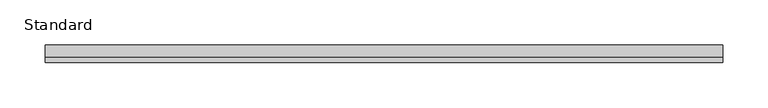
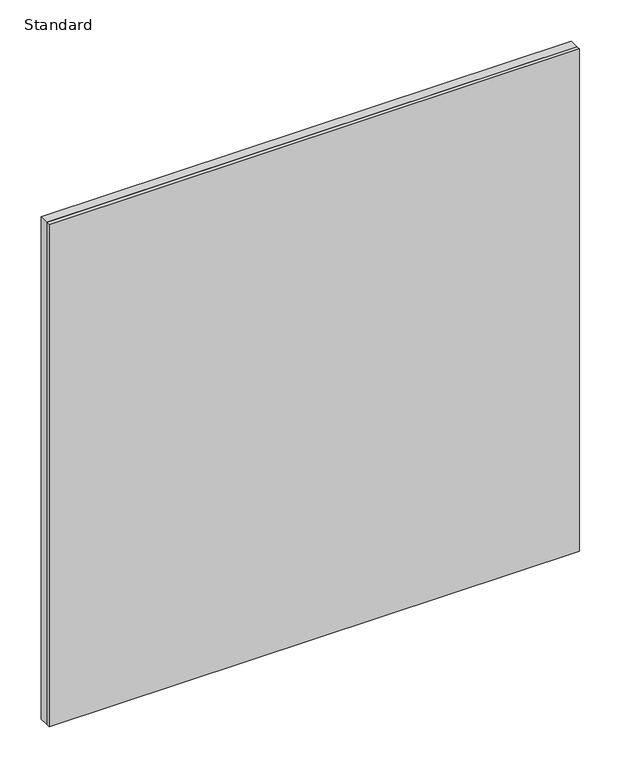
"""IFC4 building model written with IfcOpenShell, lengths in millimetres: furniture geometry, X_Partition-Compact Laminate-Duracube-Cabinet Door : Standard."""

from ifc_helpers import new_model, si_unit, frame, origin, place, context, project, spatial, polyline, outline, extrude, source, transform, mapped, element, save


def standard_cc6c492e(model_context):
    return source(origin(), model_context, "Body", "SweptSolid", [
        extrude(outline(polyline([(416.7003264, -13.0), (-327.2996736, -13.0), (-327.2996736, 0.0), (416.7003264, 0.0), (416.7003264, -13.0)])), frame((0.0, 0.0, 3.0), z_axis=(0.0, 0.0, 1.0), x_axis=(1.0, 0.0, 0.0)), (0.0, 0.0, 1.0), 744.0),
        extrude(outline(polyline([(416.7003264, -19.0), (-327.2996736, -19.0), (-327.2996736, -13.0), (416.7003264, -13.0), (416.7003264, -19.0)])), frame((0.0, 0.0, 3.0), z_axis=(0.0, 0.0, 1.0), x_axis=(1.0, 0.0, 0.0)), (0.0, 0.0, 1.0), 744.0),
    ])


if __name__ == "__main__":
    model = new_model("IFC4")
    model_context = context("Model", 3, world=origin())
    ifc_project = project(units=[si_unit("LENGTHUNIT", "METRE", prefix="MILLI")], contexts=[model_context])
    site = spatial("IfcSite", under=ifc_project)
    building = spatial("IfcBuilding", under=site)
    placement = place(None, origin())
    standard_shape = standard_cc6c492e(model_context)
    element("IfcFurniture", 1, ObjectType="X_Partition-Compact Laminate-Duracube-Cabinet Door : Standard", at=placement, inside=building, context=model_context, shape_type="MappedRepresentation", body=[
        mapped(standard_shape, transform((0.0, 0.0, 0.0), x_axis=(1.0, 0.0, 0.0), y_axis=(0.0, 1.0, 0.0), z_axis=(0.0, 0.0, 1.0))),
    ])
    save(model, "model.ifc")
